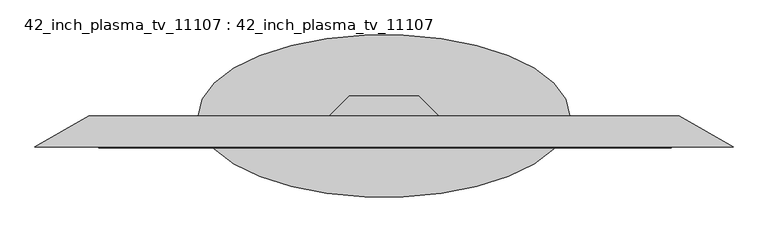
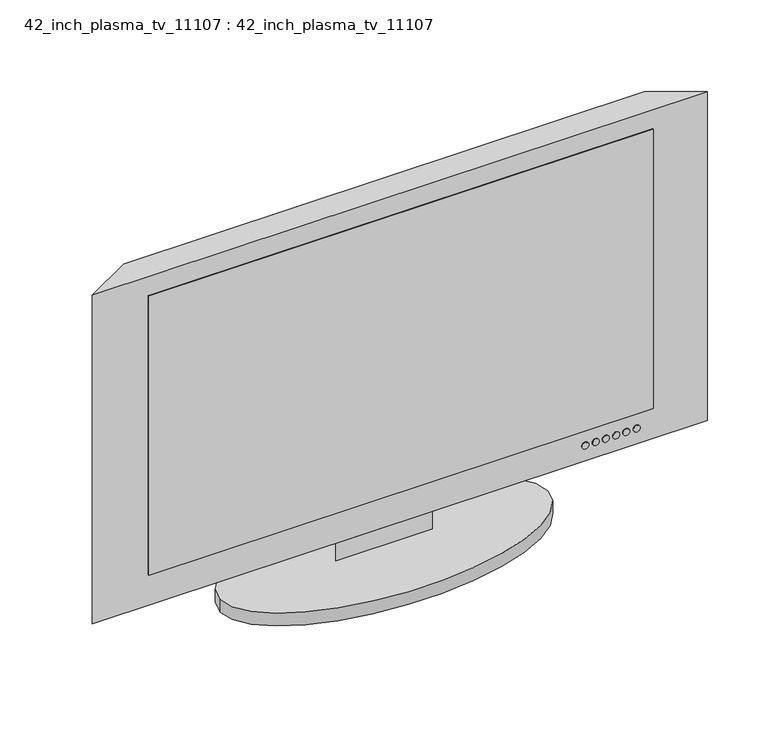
"""IFC4 building model written with IfcOpenShell, lengths in millimetres: proxy geometry, 42_inch_plasma_tv_11107 : 42_inch_plasma_tv_11107."""

from ifc_helpers import new_model, si_unit, point, frame, frame_2d, origin, origin_with_axes, place, context, project, spatial, polyline, circle_curve, ellipse_curve, trimmed, segment, composite_curve, outline, extrude, source, transform, mapped, element, save
from ifc_brep_helpers import plane_surface, extruded_surface, advanced_brep


def proxy_42_inch_plasma_tv_11107_42_inch_plasma_tv_11107_394337c5(model_context):
    return source(origin(), model_context, "Body", "SolidModel", [
        advanced_brep(
        [(-304.8, 50.8, -76.2), (304.8, 50.8, -76.2), (-304.8, 50.8, -101.6), (304.8, 50.8, -101.6)],
        [
            (0, 1, ellipse_curve(frame((0.0, 50.8, -76.2), z_axis=(0.0, 0.0, 1.0), x_axis=(1.0, 0.0, 0.0)), 304.8, 133.35)),
            (1, 0, ellipse_curve(frame((0.0, 50.8, -76.2), z_axis=(0.0, 0.0, 1.0), x_axis=(1.0, 0.0, 0.0)), 304.8, 133.35)),
            (2, 3, ellipse_curve(frame((0.0, 50.8, -101.6), z_axis=(0.0, 0.0, -1.0), x_axis=(1.0, 0.0, 0.0)), 304.8, 133.35)),
            (3, 2, ellipse_curve(frame((0.0, 50.8, -101.6), z_axis=(0.0, 0.0, -1.0), x_axis=(1.0, 0.0, 0.0)), 304.8, 133.35)),
            (0, 2),
            (3, 1),
        ],
        [
            plane_surface(frame((304.8, 50.8, -76.2), z_axis=(0.0, 0.0, 1.0), x_axis=(0.0, 1.0, 0.0))),
            plane_surface(frame((304.8, 50.8, -101.6), z_axis=(0.0, 0.0, -1.0), x_axis=(0.0, -1.0, 0.0))),
            extruded_surface(trimmed(ellipse_curve(frame((0.0, 50.8, -127.0), z_axis=(0.0, 0.0, 1.0), x_axis=(1.0, 0.0, 0.0)), 304.8, 133.35), [point((-304.8, 50.8, -127.0))], [point((304.8, 50.8, -127.0))], True, "CARTESIAN"), (0.0, 0.0, 25.400000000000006), 25.400000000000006),
            extruded_surface(trimmed(ellipse_curve(frame((0.0, 50.8, -127.0), z_axis=(0.0, 0.0, 1.0), x_axis=(1.0, 0.0, 0.0)), 304.8, 133.35), [point((304.8, 50.8, -127.0))], [point((-304.8, 50.8, -127.0))], True, "CARTESIAN"), (0.0, 0.0, 25.400000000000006), 25.400000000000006),
        ],
        [
            (0, [[1, 2]]),
            (1, [[3, 4]]),
            (2, [[-1, 5, -4, 6]]),
            (3, [[-2, -6, -3, -5]]),
        ],
    ),
        extrude(outline(polyline([(59.5231777, 471.1455679), (609.6, 471.1455679), (609.6, -468.2337256), (59.5231777, -468.2337256), (59.5231777, -341.6544321), (59.5231777, 471.1455679)])), frame((0.0, -1.5875, 0.0), z_axis=(0.0, 1.0, 0.0), x_axis=(0.0, 0.0, 1.0)), (0.0, 0.0, 1.0), 1.5875),
        extrude(outline(composite_curve([segment(trimmed(circle_curve(frame_2d((30.636959, 440.2388939)), 6.35), [point((30.636959, 433.8888939))], [point((30.636959, 446.5888939))], False, "CARTESIAN"), True, "CONTINUOUS"), segment(trimmed(circle_curve(frame_2d((30.636959, 440.2388939)), 6.35), [point((30.636959, 446.5888939))], [point((30.636959, 433.8888939))], False, "CARTESIAN"), True, "CONTINUOUS")], self_intersect=False)), frame((0.0, -1.5875, 0.0), z_axis=(0.0, 1.0, 0.0), x_axis=(0.0, 0.0, 1.0)), (0.0, 0.0, 1.0), 1.5875),
        extrude(outline(composite_curve([segment(trimmed(circle_curve(frame_2d((30.636959, 421.1888939)), 6.35), [point((30.636959, 414.8388939))], [point((30.636959, 427.5388939))], False, "CARTESIAN"), True, "CONTINUOUS"), segment(trimmed(circle_curve(frame_2d((30.636959, 421.1888939)), 6.35), [point((30.636959, 427.5388939))], [point((30.636959, 414.8388939))], False, "CARTESIAN"), True, "CONTINUOUS")], self_intersect=False)), frame((0.0, -1.5875, 0.0), z_axis=(0.0, 1.0, 0.0), x_axis=(0.0, 0.0, 1.0)), (0.0, 0.0, 1.0), 1.5875),
        extrude(outline(composite_curve([segment(trimmed(circle_curve(frame_2d((30.636959, 402.1388939)), 6.35), [point((30.636959, 395.7888939))], [point((30.636959, 408.4888939))], False, "CARTESIAN"), True, "CONTINUOUS"), segment(trimmed(circle_curve(frame_2d((30.636959, 402.1388939)), 6.35), [point((30.636959, 408.4888939))], [point((30.636959, 395.7888939))], False, "CARTESIAN"), True, "CONTINUOUS")], self_intersect=False)), frame((0.0, -1.5875, 0.0), z_axis=(0.0, 1.0, 0.0), x_axis=(0.0, 0.0, 1.0)), (0.0, 0.0, 1.0), 1.5875),
        extrude(outline(composite_curve([segment(trimmed(circle_curve(frame_2d((30.636959, 383.0888939)), 6.35), [point((30.636959, 376.7388939))], [point((30.636959, 389.4388939))], False, "CARTESIAN"), True, "CONTINUOUS"), segment(trimmed(circle_curve(frame_2d((30.636959, 383.0888939)), 6.35), [point((30.636959, 389.4388939))], [point((30.636959, 376.7388939))], False, "CARTESIAN"), True, "CONTINUOUS")], self_intersect=False)), frame((0.0, -1.5875, 0.0), z_axis=(0.0, 1.0, 0.0), x_axis=(0.0, 0.0, 1.0)), (0.0, 0.0, 1.0), 1.5875),
        extrude(outline(composite_curve([segment(trimmed(circle_curve(frame_2d((30.636959, 364.0388939)), 6.35), [point((30.636959, 357.6888939))], [point((30.636959, 370.3888939))], False, "CARTESIAN"), True, "CONTINUOUS"), segment(trimmed(circle_curve(frame_2d((30.636959, 364.0388939)), 6.35), [point((30.636959, 370.3888939))], [point((30.636959, 357.6888939))], False, "CARTESIAN"), True, "CONTINUOUS")], self_intersect=False)), frame((0.0, -1.5875, 0.0), z_axis=(0.0, 1.0, 0.0), x_axis=(0.0, 0.0, 1.0)), (0.0, 0.0, 1.0), 1.5875),
        extrude(outline(composite_curve([segment(trimmed(circle_curve(frame_2d((30.636959, 344.9888939)), 6.35), [point((30.636959, 338.6388939))], [point((30.636959, 351.3388939))], False, "CARTESIAN"), True, "CONTINUOUS"), segment(trimmed(circle_curve(frame_2d((30.636959, 344.9888939)), 6.35), [point((30.636959, 351.3388939))], [point((30.636959, 338.6388939))], False, "CARTESIAN"), True, "CONTINUOUS")], self_intersect=False)), frame((0.0, -1.5875, 0.0), z_axis=(0.0, 1.0, 0.0), x_axis=(0.0, 0.0, 1.0)), (0.0, 0.0, 1.0), 1.5875),
        extrude(outline(polyline([(56.6544527, 83.7716648), (89.6261175, 50.8), (-89.6261175, 50.8), (-56.6544527, 83.7716648), (56.6544527, 83.7716648)])), frame((0.0, 0.0, -76.2), z_axis=(0.0, 0.0, 1.0), x_axis=(1.0, 0.0, 0.0)), (0.0, 0.0, 1.0), 76.2),
        extrude(outline(polyline([(572.7455679, 0.0), (-572.7455679, 0.0), (-484.7573869, 50.8), (484.7573869, 50.8), (572.7455679, 0.0)])), origin_with_axes(), (0.0, 0.0, 1.0), 647.1063778),
    ])


if __name__ == "__main__":
    model = new_model("IFC4")
    model_context = context("Model", 3, world=origin())
    ifc_project = project(units=[si_unit("LENGTHUNIT", "METRE", prefix="MILLI")], contexts=[model_context])
    site = spatial("IfcSite", under=ifc_project)
    building = spatial("IfcBuilding", under=site)
    placement = place(None, origin())
    proxy_42_inch_plasma_tv_11107_42_inch_plasma_tv_11107_shape = proxy_42_inch_plasma_tv_11107_42_inch_plasma_tv_11107_394337c5(model_context)
    element("IfcBuildingElementProxy", 1, Name="42_inch_plasma_tv_11107 : 42_inch_plasma_tv_11107", ObjectType="42_inch_plasma_tv_11107 : 42_inch_plasma_tv_11107", at=placement, inside=building, context=model_context, shape_type="MappedRepresentation", body=[
        mapped(proxy_42_inch_plasma_tv_11107_42_inch_plasma_tv_11107_shape, transform((0.0, 0.0, 0.0), x_axis=(1.0, 0.0, 0.0), y_axis=(0.0, 1.0, 0.0), z_axis=(0.0, 0.0, 1.0))),
    ])
    save(model, "model.ifc")
